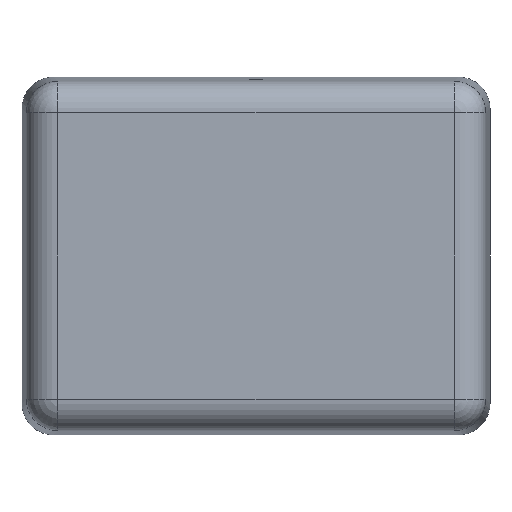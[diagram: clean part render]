
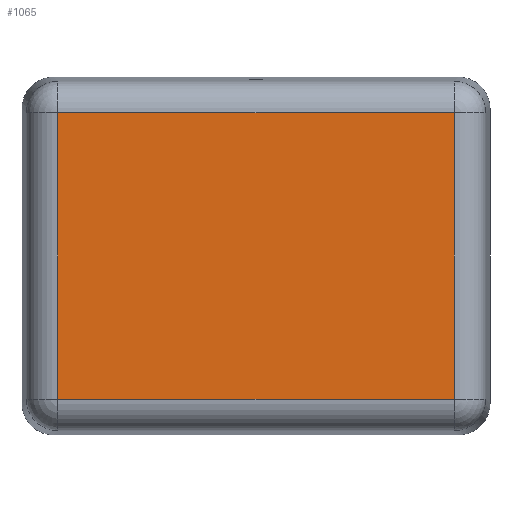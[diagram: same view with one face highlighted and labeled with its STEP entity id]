
A CAD part, front view. The second image highlights one B-rep face of the part: STEP entity #1065.
In plain terms, the highlighted planar face has unit normal (0, -1, 0).
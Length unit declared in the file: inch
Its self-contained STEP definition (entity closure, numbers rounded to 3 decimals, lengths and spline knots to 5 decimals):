
#40 = CARTESIAN_POINT ( 'NONE',  ( -5.21666, -4.06, -3.76666 ) ) ;
#166 = CARTESIAN_POINT ( 'NONE',  ( 5.21666, -4.06, 3.76666 ) ) ;
#318 = EDGE_LOOP ( 'NONE', ( #622, #507, #814, #1825 ) ) ;
#324 = CARTESIAN_POINT ( 'NONE',  ( -6.23, -4.06, 4.78 ) ) ;
#352 = PLANE ( 'NONE',  #1132 ) ;
#381 = DIRECTION ( 'NONE',  ( 0., 0., 1. ) ) ;
#382 = DIRECTION ( 'NONE',  ( 0., 1., 0. ) ) ;
#401 = VERTEX_POINT ( 'NONE', #1882 ) ;
#456 = EDGE_CURVE ( 'NONE', #2237, #1924, #1044, .T. ) ;
#470 = CARTESIAN_POINT ( 'NONE',  ( 5.21666, -4.06, 0. ) ) ;
#476 = DIRECTION ( 'NONE',  ( 0., 0., -1. ) ) ;
#478 = DIRECTION ( 'NONE',  ( 0., 0., 1. ) ) ;
#482 = CARTESIAN_POINT ( 'NONE',  ( -5.21666, -4.06, 0. ) ) ;
#502 = LINE ( 'NONE', #1501, #642 ) ;
#507 = ORIENTED_EDGE ( 'NONE', *, *, #1949, .T. ) ;
#535 = CARTESIAN_POINT ( 'NONE',  ( 5.21666, -4.06, -3.76666 ) ) ;
#622 = ORIENTED_EDGE ( 'NONE', *, *, #456, .T. ) ;
#642 = VECTOR ( 'NONE', #1733, 39.37008 ) ;
#814 = ORIENTED_EDGE ( 'NONE', *, *, #1590, .T. ) ;
#960 = EDGE_CURVE ( 'NONE', #401, #2237, #1208, .T. ) ;
#1044 = LINE ( 'NONE', #2552, #2015 ) ;
#1065 = ADVANCED_FACE ( 'NONE', ( #1693 ), #352, .F. ) ;
#1132 = AXIS2_PLACEMENT_3D ( 'NONE', #324, #382, #381 ) ;
#1140 = VECTOR ( 'NONE', #478, 39.37008 ) ;
#1208 = LINE ( 'NONE', #482, #1775 ) ;
#1473 = LINE ( 'NONE', #470, #1140 ) ;
#1501 = CARTESIAN_POINT ( 'NONE',  ( 0., -4.06, 3.76666 ) ) ;
#1590 = EDGE_CURVE ( 'NONE', #2117, #401, #502, .T. ) ;
#1682 = DIRECTION ( 'NONE',  ( 1., 0., 0. ) ) ;
#1693 = FACE_OUTER_BOUND ( 'NONE', #318, .T. ) ;
#1733 = DIRECTION ( 'NONE',  ( -1., 0., 0. ) ) ;
#1775 = VECTOR ( 'NONE', #476, 39.37008 ) ;
#1825 = ORIENTED_EDGE ( 'NONE', *, *, #960, .T. ) ;
#1882 = CARTESIAN_POINT ( 'NONE',  ( -5.21666, -4.06, 3.76666 ) ) ;
#1924 = VERTEX_POINT ( 'NONE', #535 ) ;
#1949 = EDGE_CURVE ( 'NONE', #1924, #2117, #1473, .T. ) ;
#2015 = VECTOR ( 'NONE', #1682, 39.37008 ) ;
#2117 = VERTEX_POINT ( 'NONE', #166 ) ;
#2237 = VERTEX_POINT ( 'NONE', #40 ) ;
#2552 = CARTESIAN_POINT ( 'NONE',  ( 0., -4.06, -3.76666 ) ) ;
